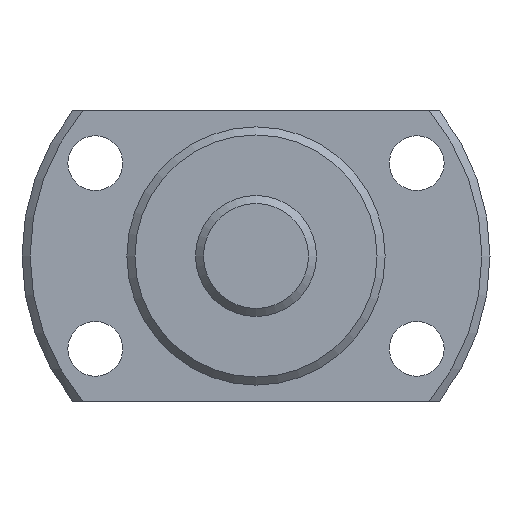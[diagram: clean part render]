
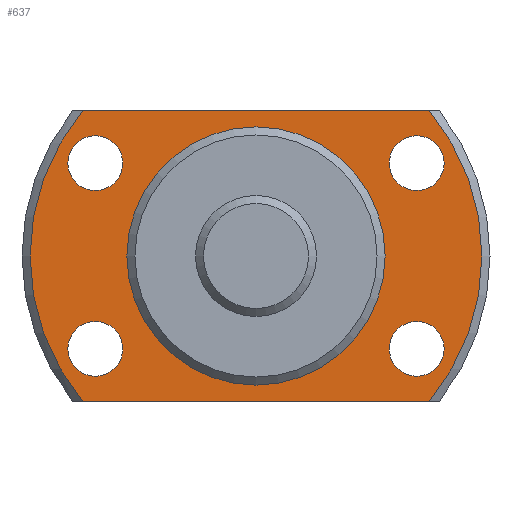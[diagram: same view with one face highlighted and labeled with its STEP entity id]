
A CAD part, left-side view. The second image highlights one B-rep face of the part: STEP entity #637.
In plain terms, the highlighted planar face has unit normal (-1, 0, 0).
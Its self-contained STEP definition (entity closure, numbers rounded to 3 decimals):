
#74=LINE('',#1109,#95);
#75=LINE('',#1113,#96);
#95=VECTOR('',#911,1000.);
#96=VECTOR('',#914,1000.);
#182=ORIENTED_EDGE('',*,*,#298,.T.);
#183=ORIENTED_EDGE('',*,*,#299,.T.);
#184=ORIENTED_EDGE('',*,*,#300,.T.);
#185=ORIENTED_EDGE('',*,*,#301,.T.);
#186=ORIENTED_EDGE('',*,*,#284,.F.);
#187=ORIENTED_EDGE('',*,*,#302,.T.);
#188=ORIENTED_EDGE('',*,*,#303,.F.);
#189=ORIENTED_EDGE('',*,*,#304,.T.);
#190=ORIENTED_EDGE('',*,*,#297,.T.);
#284=EDGE_CURVE('',#354,#355,#408,.T.);
#297=EDGE_CURVE('',#366,#366,#416,.T.);
#298=EDGE_CURVE('',#367,#367,#417,.T.);
#299=EDGE_CURVE('',#368,#368,#418,.T.);
#300=EDGE_CURVE('',#369,#369,#419,.T.);
#301=EDGE_CURVE('',#370,#370,#420,.T.);
#302=EDGE_CURVE('',#354,#371,#74,.T.);
#303=EDGE_CURVE('',#372,#371,#421,.T.);
#304=EDGE_CURVE('',#372,#355,#75,.T.);
#354=VERTEX_POINT('',#1057);
#355=VERTEX_POINT('',#1059);
#366=VERTEX_POINT('',#1099);
#367=VERTEX_POINT('',#1102);
#368=VERTEX_POINT('',#1104);
#369=VERTEX_POINT('',#1106);
#370=VERTEX_POINT('',#1108);
#371=VERTEX_POINT('',#1110);
#372=VERTEX_POINT('',#1112);
#408=CIRCLE('',#722,14.);
#416=CIRCLE('',#737,7.85);
#417=CIRCLE('',#739,1.7);
#418=CIRCLE('',#740,1.7);
#419=CIRCLE('',#741,1.7);
#420=CIRCLE('',#742,1.7);
#421=CIRCLE('',#743,14.);
#481=EDGE_LOOP('',(#182));
#482=EDGE_LOOP('',(#183));
#483=EDGE_LOOP('',(#184));
#484=EDGE_LOOP('',(#185));
#485=EDGE_LOOP('',(#186,#187,#188,#189));
#486=EDGE_LOOP('',(#190));
#560=FACE_BOUND('',#481,.T.);
#561=FACE_BOUND('',#482,.T.);
#562=FACE_BOUND('',#483,.T.);
#563=FACE_BOUND('',#484,.T.);
#564=FACE_BOUND('',#485,.T.);
#565=FACE_BOUND('',#486,.T.);
#602=PLANE('',#738);
#637=ADVANCED_FACE('',(#560,#561,#562,#563,#564,#565),#602,.F.);
#722=AXIS2_PLACEMENT_3D('',#1058,#867,#868);
#737=AXIS2_PLACEMENT_3D('',#1098,#899,#900);
#738=AXIS2_PLACEMENT_3D('',#1100,#901,#902);
#739=AXIS2_PLACEMENT_3D('',#1101,#903,#904);
#740=AXIS2_PLACEMENT_3D('',#1103,#905,#906);
#741=AXIS2_PLACEMENT_3D('',#1105,#907,#908);
#742=AXIS2_PLACEMENT_3D('',#1107,#909,#910);
#743=AXIS2_PLACEMENT_3D('',#1111,#912,#913);
#867=DIRECTION('',(1.,0.,0.));
#868=DIRECTION('',(0.,0.,-1.));
#899=DIRECTION('',(1.,0.,0.));
#900=DIRECTION('',(0.,0.,-1.));
#901=DIRECTION('',(1.,0.,0.));
#902=DIRECTION('',(0.,0.,-1.));
#903=DIRECTION('',(1.,0.,0.));
#904=DIRECTION('',(0.,0.,-1.));
#905=DIRECTION('',(1.,0.,0.));
#906=DIRECTION('',(0.,0.,-1.));
#907=DIRECTION('',(1.,0.,0.));
#908=DIRECTION('',(0.,0.,-1.));
#909=DIRECTION('',(1.,0.,0.));
#910=DIRECTION('',(0.,0.,-1.));
#911=DIRECTION('',(0.,-1.,0.));
#912=DIRECTION('',(1.,0.,0.));
#913=DIRECTION('',(0.,0.,-1.));
#914=DIRECTION('',(0.,1.,0.));
#1057=CARTESIAN_POINT('',(12.,10.724,-9.));
#1058=CARTESIAN_POINT('',(12.,0.,0.));
#1059=CARTESIAN_POINT('',(12.,10.724,9.));
#1098=CARTESIAN_POINT('',(12.,0.,0.));
#1099=CARTESIAN_POINT('',(12.,0.,-7.85));
#1100=CARTESIAN_POINT('',(12.,7.85,0.));
#1101=CARTESIAN_POINT('',(12.,-9.959,-5.75));
#1102=CARTESIAN_POINT('',(12.,-9.959,-7.45));
#1103=CARTESIAN_POINT('',(12.,-9.959,5.75));
#1104=CARTESIAN_POINT('',(12.,-9.959,4.05));
#1105=CARTESIAN_POINT('',(12.,9.959,-5.75));
#1106=CARTESIAN_POINT('',(12.,9.959,-7.45));
#1107=CARTESIAN_POINT('',(12.,9.959,5.75));
#1108=CARTESIAN_POINT('',(12.,9.959,4.05));
#1109=CARTESIAN_POINT('',(12.,7.85,-9.));
#1110=CARTESIAN_POINT('',(12.,-10.724,-9.));
#1111=CARTESIAN_POINT('',(12.,0.,0.));
#1112=CARTESIAN_POINT('',(12.,-10.724,9.));
#1113=CARTESIAN_POINT('',(12.,7.85,9.));
